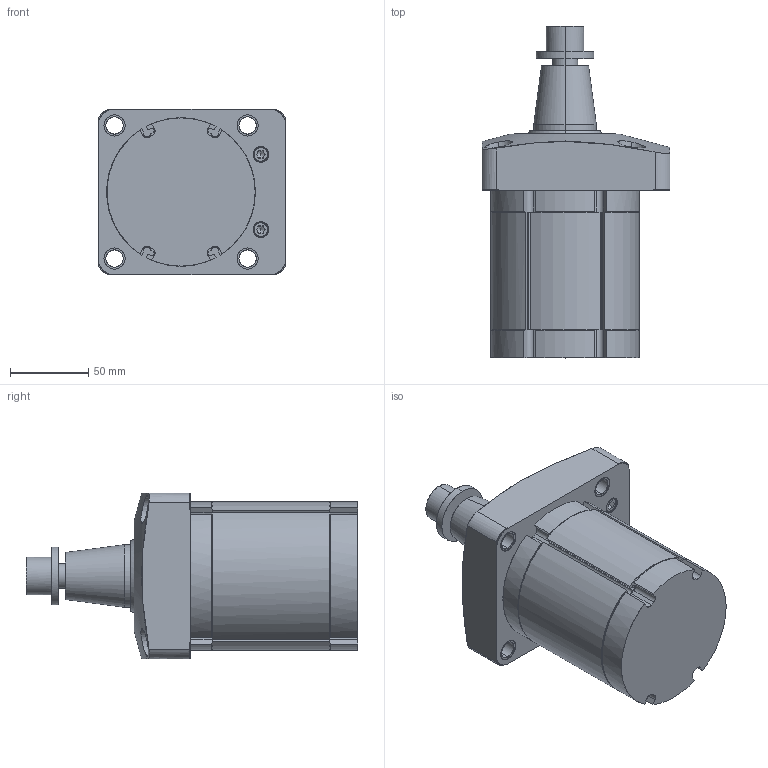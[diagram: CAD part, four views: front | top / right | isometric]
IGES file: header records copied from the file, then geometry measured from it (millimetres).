
Start section: Comment
Global section: file name: jsm63-29.igs; native system:  By Spatial Corp.; preprocessor: XPlus GENERIC/IGES 3.0; author: Author; organization: Title; date: 20080526.115847; units: millimetre
Bounding box: 120 x 212 x 106 mm (x, y, z)
Surface area: 153584.5 mm2 (no closed solid volume)
Topology: 0 solids, 0 shells, 352 faces, 1722 edges, 1708 vertices
Faces by surface type: bspline 352
